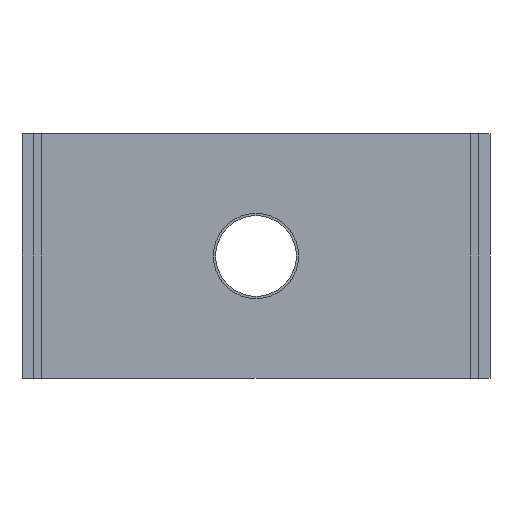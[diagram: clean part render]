
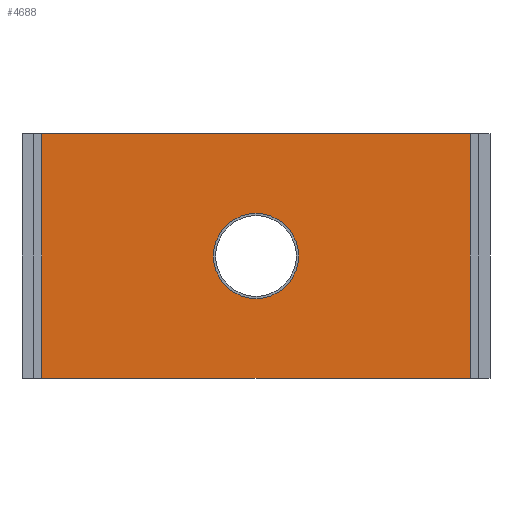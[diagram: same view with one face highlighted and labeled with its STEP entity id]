
A CAD part, front view. The second image highlights one B-rep face of the part: STEP entity #4688.
In plain terms, the highlighted planar face has unit normal (0, -1, 0).
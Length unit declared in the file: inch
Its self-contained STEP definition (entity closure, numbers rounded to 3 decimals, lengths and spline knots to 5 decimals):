
#4010=CARTESIAN_POINT('',(-15.09843,-1.8902,8.60236));
#4011=VERTEX_POINT('',#4010);
#4018=CARTESIAN_POINT('',(15.09843,-1.8902,8.60236));
#4019=VERTEX_POINT('',#4018);
#4020=CARTESIAN_POINT('',(15.09843,-1.8902,8.60236));
#4021=DIRECTION('',(-1.0,0.0,0.0));
#4022=VECTOR('',#4021,30.19685);
#4023=LINE('',#4020,#4022);
#4024=EDGE_CURVE('',#4019,#4011,#4023,.T.);
#4182=CARTESIAN_POINT('',(-3.,-1.8902,0.));
#4183=VERTEX_POINT('',#4182);
#4184=CARTESIAN_POINT('',(0.0,-1.8902,0.0));
#4185=DIRECTION('',(0.0,1.0,0.0));
#4186=DIRECTION('',(1.0,0.0,0.0));
#4187=AXIS2_PLACEMENT_3D('',#4184,#4185,#4186);
#4188=CIRCLE('',#4187,3.);
#4189=EDGE_CURVE('',#4183,#4183,#4188,.T.);
#4644=CARTESIAN_POINT('',(15.09843,-1.8902,-8.60236));
#4645=VERTEX_POINT('',#4644);
#4646=CARTESIAN_POINT('',(15.09843,-1.8902,-8.60236));
#4647=DIRECTION('',(0.0,0.0,1.0));
#4648=VECTOR('',#4647,17.20472);
#4649=LINE('',#4646,#4648);
#4650=EDGE_CURVE('',#4645,#4019,#4649,.T.);
#4662=CARTESIAN_POINT('',(15.09843,-1.8902,0.0));
#4663=DIRECTION('',(0.0,-1.0,0.0));
#4664=DIRECTION('',(0.0,0.0,-1.0));
#4665=AXIS2_PLACEMENT_3D('',#4662,#4663,#4664);
#4666=PLANE('',#4665);
#4667=ORIENTED_EDGE('',*,*,#4024,.T.);
#4668=CARTESIAN_POINT('',(-15.09843,-1.8902,-8.60236));
#4669=VERTEX_POINT('',#4668);
#4670=CARTESIAN_POINT('',(-15.09843,-1.8902,-8.60236));
#4671=DIRECTION('',(0.0,0.0,1.0));
#4672=VECTOR('',#4671,17.20472);
#4673=LINE('',#4670,#4672);
#4674=EDGE_CURVE('',#4669,#4011,#4673,.T.);
#4675=ORIENTED_EDGE('',*,*,#4674,.F.);
#4676=CARTESIAN_POINT('',(-15.09843,-1.8902,-8.60236));
#4677=DIRECTION('',(1.0,0.0,0.0));
#4678=VECTOR('',#4677,30.19685);
#4679=LINE('',#4676,#4678);
#4680=EDGE_CURVE('',#4669,#4645,#4679,.T.);
#4681=ORIENTED_EDGE('',*,*,#4680,.T.);
#4682=ORIENTED_EDGE('',*,*,#4650,.T.);
#4683=EDGE_LOOP('',(#4667,#4675,#4681,#4682));
#4684=FACE_OUTER_BOUND('',#4683,.T.);
#4685=ORIENTED_EDGE('',*,*,#4189,.T.);
#4686=EDGE_LOOP('',(#4685));
#4687=FACE_BOUND('',#4686,.T.);
#4688=ADVANCED_FACE('',(#4684,#4687),#4666,.T.);
